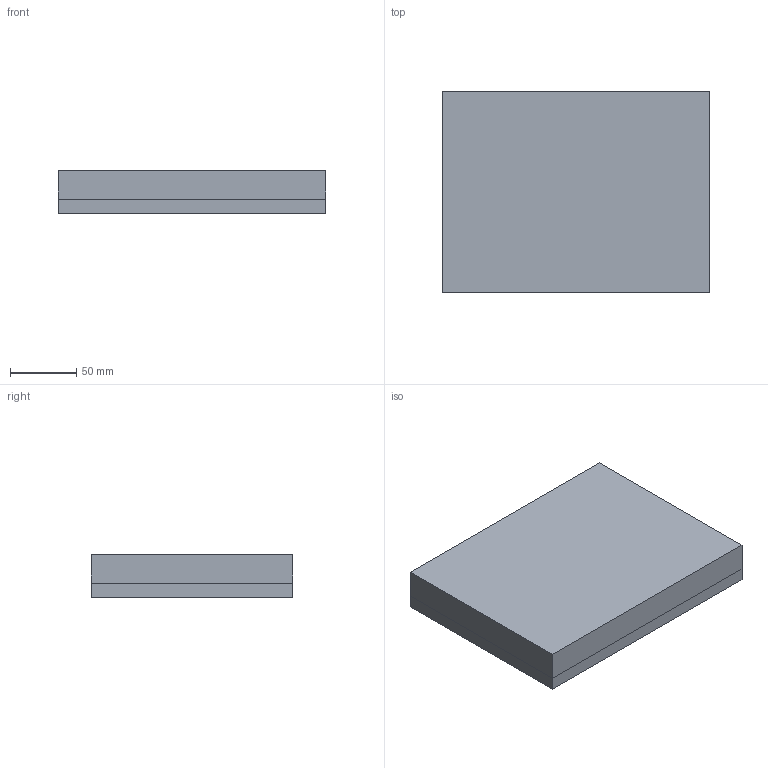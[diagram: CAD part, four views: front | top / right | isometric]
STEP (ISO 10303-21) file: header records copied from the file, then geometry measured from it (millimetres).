
FILE_DESCRIPTION(('CATIA V5 STEP Exchange'),'2;1');
FILE_NAME('C:\_Andres\UNIVERSIDAD\IQS\ASIGNATURAS\DAO\Controles\1920\c2\c2-Azua_Ruiz-Falco_Cristina_de.stp','2020-02-10T15:37:41+00:00',('none'),('none'),'CATIA Version 5 Release 19 SP 3 (IN-10)','CATIA V5 STEP AP203','none');
FILE_SCHEMA(('CONFIG_CONTROL_DESIGN'));
Length unit declared in the file: millimetre
Products named in the file (1): c2-Azua_Ruiz-Falco_Cristina_de
Bounding box: 202 x 152 x 32 mm (x, y, z)
Surface area: 205687 mm2
Topology: 3 solids, 3 shells, 103 faces, 232 edges, 128 vertices
Faces by surface type: cylinder 40, plane 27, bspline 24, sphere 12
Entity records: 3348 total; most frequent: CARTESIAN_POINT 1636, ORIENTED_EDGE 440, DIRECTION 224, EDGE_CURVE 164, EDGE_LOOP 110, ADVANCED_FACE 103, FACE_OUTER_BOUND 103, AXIS2_PLACEMENT_3D 96
